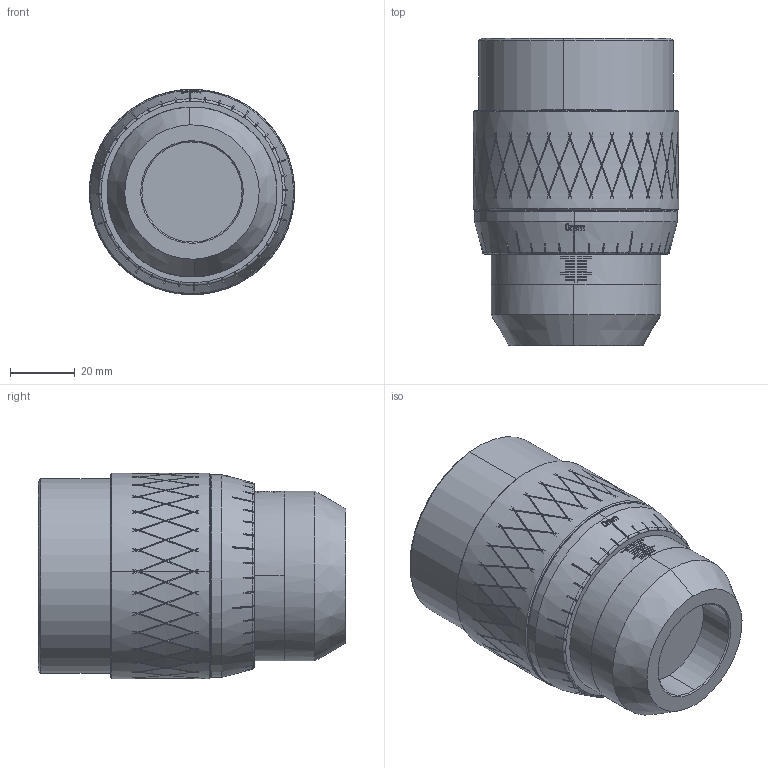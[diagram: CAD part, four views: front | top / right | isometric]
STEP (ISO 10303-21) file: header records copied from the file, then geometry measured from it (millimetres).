
FILE_DESCRIPTION (( 'STEP AP214' ), '1' );
FILE_NAME ('LMR-25-20.STEP', '2016-11-15T13:48:59', ( '' ), ( '' ), 'SwSTEP 2.0', 'SolidWorks 2016', '' );
FILE_SCHEMA (( 'AUTOMOTIVE_DESIGN' ));
Length unit declared in the file: inch
Products named in the file (1): LMR-25-20
Bounding box: 63.47 x 95.09 x 63.45 mm (x, y, z)
Volume: 242282.3 mm3; surface area: 29264.4 mm2
Topology: 2 solids, 2 shells, 1023 faces, 2638 edges, 1630 vertices
Faces by surface type: plane 918, cylinder 56, bspline 26, cone 15, torus 8
Entity records: 31880 total; most frequent: CARTESIAN_POINT 9231, ORIENTED_EDGE 5276, DIRECTION 3983, EDGE_CURVE 2638, VECTOR 1691, LINE 1691, VERTEX_POINT 1630, AXIS2_PLACEMENT_3D 1146
